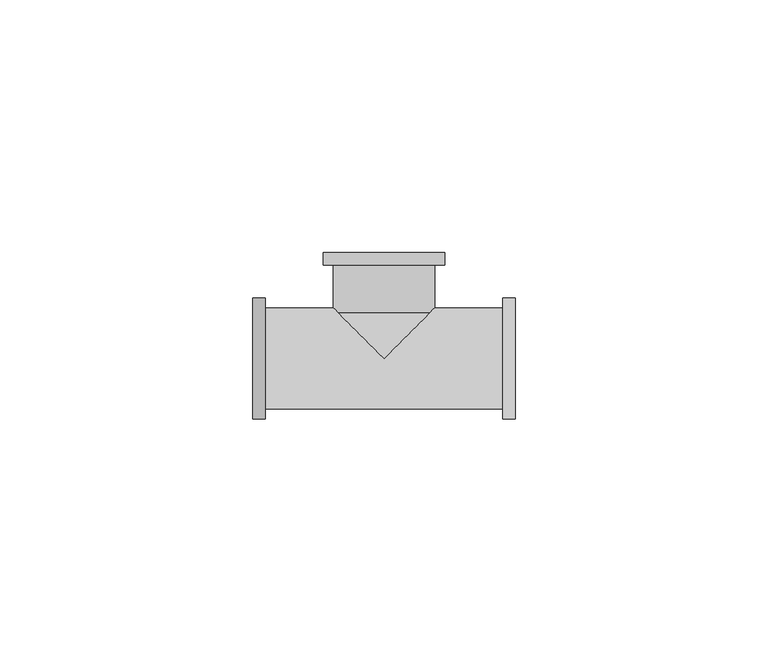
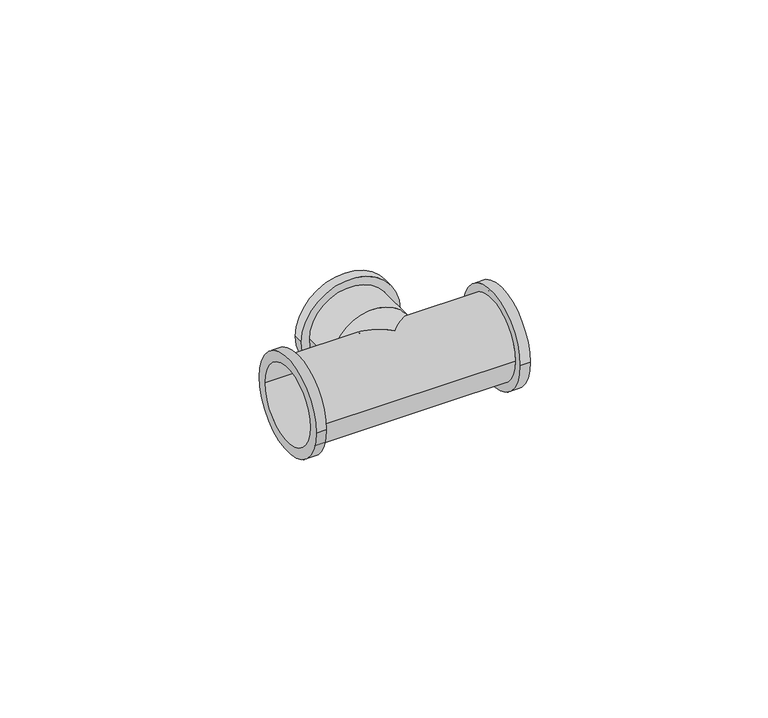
"""IFC4 building model written with IfcOpenShell, lengths in millimetres: pipe fitting geometry, БИР ПЕКС_НПР_Тройник_ВР : Тройник с внутренней резьбой."""

from ifc_helpers import new_model, si_unit, frame, origin, place, context, project, spatial, polyline, circle_curve, ellipse_curve, source, transform, mapped, element, save
from ifc_brep_helpers import plane_surface, cylinder_surface, revolved_surface, advanced_brep


def pipe_fitting_cb28dc7b(model_context):
    return source(origin(), model_context, "Body", "AdvancedBrep", [
        advanced_brep(
        [(9.0, 9.0, -4.3588989), (0.0, 0.0, -10.0), (-9.0, 9.0, -4.3588989), (0.0, 0.0, 10.0), (9.0, 9.0, 4.3588989), (-9.0, 9.0, 4.3588989), (26.0, -12.0, 0.0), (26.0, 12.0, 0.0), (26.0, 9.5, 0.0), (26.0, -9.5, 0.0), (-26.0, -12.0, 0.0), (-26.0, 12.0, 0.0), (-26.0, -9.5, 0.0), (-26.0, 9.5, 0.0), (10.0, 10.0, 0.0), (23.5, 10.0, 0.0), (23.5, -10.0, 0.0), (-23.5, -10.0, 0.0), (-23.5, 10.0, 0.0), (-10.0, 10.0, 0.0), (-12.0, 18.5, 0.0), (12.0, 18.5, 0.0), (10.0, 18.5, 0.0), (-10.0, 18.5, 0.0), (-12.0, 21.0, 0.0), (12.0, 21.0, 0.0), (-23.5, -12.0, 0.0), (-23.5, 12.0, 0.0), (23.5, -12.0, 0.0), (23.5, 12.0, 0.0), (9.5, 9.5, 0.0), (0.0, 0.0, -9.5), (-9.5, 9.5, 0.0), (0.0, 0.0, 9.5), (9.5, 16.0, 0.0), (-9.5, 16.0, 0.0)],
        [
            (0, 1, ellipse_curve(frame((0.0, 0.0, 0.0), z_axis=(-0.7071067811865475, 0.7071067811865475, 0.0), x_axis=(-0.7071067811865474, -0.7071067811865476, 0.0)), 14.1421356, 10.0)),
            (1, 2, ellipse_curve(frame((0.0, 0.0, 0.0), z_axis=(0.7071067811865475, 0.7071067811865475, 0.0), x_axis=(0.7071067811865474, -0.7071067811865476, 0.0)), 14.1421356, 10.0)),
            (2, 0, circle_curve(frame((0.0, 9.0, 0.0), z_axis=(0.0, -1.0, 0.0), x_axis=(1.0, 0.0, 0.0)), 10.0)),
            (3, 4, ellipse_curve(frame((0.0, 0.0, 0.0), z_axis=(-0.7071067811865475, 0.7071067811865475, 0.0), x_axis=(-0.7071067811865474, -0.7071067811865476, 0.0)), 14.1421356, 10.0)),
            (4, 5, circle_curve(frame((0.0, 9.0, 0.0), z_axis=(0.0, -1.0, 0.0), x_axis=(1.0, 0.0, 0.0)), 10.0)),
            (5, 3, ellipse_curve(frame((0.0, 0.0, 0.0), z_axis=(0.7071067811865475, 0.7071067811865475, 0.0), x_axis=(0.7071067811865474, -0.7071067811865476, 0.0)), 14.1421356, 10.0)),
            (6, 7, circle_curve(frame((26.0, 0.0, 0.0), z_axis=(1.0, 0.0, 0.0), x_axis=(0.0, 1.0, 0.0)), 12.0)),
            (7, 6, circle_curve(frame((26.0, 0.0, 0.0), z_axis=(1.0, 0.0, 0.0), x_axis=(0.0, 1.0, 0.0)), 12.0)),
            (8, 9, circle_curve(frame((26.0, 0.0, 0.0), z_axis=(-1.0, 0.0, 0.0), x_axis=(0.0, 1.0, 0.0)), 9.5)),
            (9, 8, circle_curve(frame((26.0, 0.0, 0.0), z_axis=(-1.0, 0.0, 0.0), x_axis=(0.0, 1.0, 0.0)), 9.5)),
            (10, 11, circle_curve(frame((-26.0, 0.0, 0.0), z_axis=(-1.0, 0.0, 0.0), x_axis=(0.0, 1.0, 0.0)), 12.0)),
            (11, 10, circle_curve(frame((-26.0, 0.0, 0.0), z_axis=(-1.0, 0.0, 0.0), x_axis=(0.0, 1.0, 0.0)), 12.0)),
            (12, 13, circle_curve(frame((-26.0, 0.0, 0.0), z_axis=(1.0, 0.0, 0.0), x_axis=(0.0, 1.0, 0.0)), 9.5)),
            (13, 12, circle_curve(frame((-26.0, 0.0, 0.0), z_axis=(1.0, 0.0, 0.0), x_axis=(0.0, 1.0, 0.0)), 9.5)),
            (0, 14, ellipse_curve(frame((0.0, 0.0, 0.0), z_axis=(0.7071067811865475, -0.7071067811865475, 0.0), x_axis=(0.7071067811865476, 0.7071067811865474, 0.0)), 14.1421356, 10.0)),
            (14, 15),
            (15, 16, circle_curve(frame((23.5, 0.0, 0.0), z_axis=(-1.0, 0.0, 0.0), x_axis=(0.0, 1.0, 0.0)), 10.0)),
            (16, 17),
            (17, 18, circle_curve(frame((-23.5, 0.0, 0.0), z_axis=(1.0, 0.0, 0.0), x_axis=(0.0, 1.0, 0.0)), 10.0)),
            (18, 19),
            (19, 2, ellipse_curve(frame((0.0, 0.0, 0.0), z_axis=(-0.7071067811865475, -0.7071067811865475, 0.0), x_axis=(0.7071067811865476, -0.7071067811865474, 0.0)), 14.1421356, 10.0)),
            (5, 19, ellipse_curve(frame((0.0, 0.0, 0.0), z_axis=(-0.7071067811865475, -0.7071067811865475, 0.0), x_axis=(0.7071067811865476, -0.7071067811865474, 0.0)), 14.1421356, 10.0)),
            (18, 17, circle_curve(frame((-23.5, 0.0, 0.0), z_axis=(1.0, 0.0, 0.0), x_axis=(0.0, 1.0, 0.0)), 10.0)),
            (16, 15, circle_curve(frame((23.5, 0.0, 0.0), z_axis=(-1.0, 0.0, 0.0), x_axis=(0.0, 1.0, 0.0)), 10.0)),
            (14, 4, ellipse_curve(frame((0.0, 0.0, 0.0), z_axis=(0.7071067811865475, -0.7071067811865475, 0.0), x_axis=(0.7071067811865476, 0.7071067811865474, 0.0)), 14.1421356, 10.0)),
            (20, 21, circle_curve(frame((0.0, 18.5, 0.0), z_axis=(0.0, -1.0, 0.0), x_axis=(1.0, 0.0, 0.0)), 12.0)),
            (21, 20, circle_curve(frame((0.0, 18.5, 0.0), z_axis=(0.0, -1.0, 0.0), x_axis=(1.0, 0.0, 0.0)), 12.0)),
            (22, 23, circle_curve(frame((0.0, 18.5, 0.0), z_axis=(0.0, 1.0, 0.0), x_axis=(1.0, 0.0, 0.0)), 10.0)),
            (23, 22, circle_curve(frame((0.0, 18.5, 0.0), z_axis=(0.0, 1.0, 0.0), x_axis=(1.0, 0.0, 0.0)), 10.0)),
            (20, 24),
            (24, 25, circle_curve(frame((0.0, 21.0, 0.0), z_axis=(0.0, -1.0, 0.0), x_axis=(1.0, 0.0, 0.0)), 12.0)),
            (25, 21),
            (25, 24, circle_curve(frame((0.0, 21.0, 0.0), z_axis=(0.0, -1.0, 0.0), x_axis=(1.0, 0.0, 0.0)), 12.0)),
            (26, 27, circle_curve(frame((-23.5, 0.0, 0.0), z_axis=(1.0, 0.0, 0.0), x_axis=(0.0, 1.0, 0.0)), 12.0)),
            (27, 26, circle_curve(frame((-23.5, 0.0, 0.0), z_axis=(1.0, 0.0, 0.0), x_axis=(0.0, 1.0, 0.0)), 12.0)),
            (11, 27),
            (26, 10),
            (28, 29, circle_curve(frame((23.5, 0.0, 0.0), z_axis=(-1.0, 0.0, 0.0), x_axis=(0.0, 1.0, 0.0)), 12.0)),
            (29, 28, circle_curve(frame((23.5, 0.0, 0.0), z_axis=(-1.0, 0.0, 0.0), x_axis=(0.0, 1.0, 0.0)), 12.0)),
            (6, 28),
            (29, 7),
            (22, 14),
            (19, 23),
            (12, 9),
            (8, 30),
            (30, 31, ellipse_curve(frame((0.0, 0.0, 0.0), z_axis=(-0.7071067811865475, 0.7071067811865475, 0.0), x_axis=(0.7071067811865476, 0.7071067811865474, 0.0)), 13.4350288, 9.5)),
            (31, 32, ellipse_curve(frame((0.0, 0.0, 0.0), z_axis=(0.7071067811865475, 0.7071067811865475, 0.0), x_axis=(0.7071067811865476, -0.7071067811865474, 0.0)), 13.4350288, 9.5)),
            (32, 13),
            (32, 33, ellipse_curve(frame((0.0, 0.0, 0.0), z_axis=(0.7071067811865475, 0.7071067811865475, 0.0), x_axis=(0.7071067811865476, -0.7071067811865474, 0.0)), 13.4350288, 9.5)),
            (33, 30, ellipse_curve(frame((0.0, 0.0, 0.0), z_axis=(-0.7071067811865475, 0.7071067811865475, 0.0), x_axis=(0.7071067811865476, 0.7071067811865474, 0.0)), 13.4350288, 9.5)),
            (34, 35, circle_curve(frame((0.0, 16.0, 0.0), z_axis=(0.0, 1.0, 0.0), x_axis=(1.0, 0.0, 0.0)), 9.5)),
            (35, 32),
            (30, 34),
            (35, 34, circle_curve(frame((0.0, 16.0, 0.0), z_axis=(0.0, 1.0, 0.0), x_axis=(1.0, 0.0, 0.0)), 9.5)),
        ],
        [
            cylinder_surface(frame((0.0, 9.0, 0.0), z_axis=(0.0, -1.0, 0.0), x_axis=(1.0, 0.0, 0.0)), 10.0),
            plane_surface(frame((26.0, 10.0, 0.0), z_axis=(1.0, 0.0, 0.0), x_axis=(0.0, 0.0, 1.0))),
            plane_surface(frame((-26.0, 10.0, 0.0), z_axis=(-1.0, 0.0, 0.0), x_axis=(0.0, 0.0, -1.0))),
            cylinder_surface(frame((-26.0, 0.0, 0.0), z_axis=(1.0, 0.0, 0.0), x_axis=(0.0, 1.0, 0.0)), 10.0),
            plane_surface(frame((12.0, 18.5, 0.0), z_axis=(0.0, -1.0, 0.0), x_axis=(0.0, 0.0, 1.0))),
            cylinder_surface(frame((0.0, 21.0, 0.0), z_axis=(0.0, -1.0, 0.0), x_axis=(1.0, 0.0, 0.0)), 12.0),
            plane_surface(frame((-23.5, 12.0, 0.0), z_axis=(1.0, 0.0, 0.0), x_axis=(0.0, 0.0, 1.0))),
            cylinder_surface(frame((-23.5, 0.0, 0.0), z_axis=(-1.0, 0.0, 0.0), x_axis=(0.0, 1.0, 0.0)), 12.0),
            plane_surface(frame((23.5, 12.0, 0.0), z_axis=(-1.0, 0.0, 0.0), x_axis=(0.0, 0.0, -1.0))),
            cylinder_surface(frame((23.5, 0.0, 0.0), z_axis=(1.0, 0.0, 0.0), x_axis=(0.0, 1.0, 0.0)), 12.0),
            plane_surface(frame((12.0, 21.0, 0.0), z_axis=(0.0, 1.0, 0.0), x_axis=(0.0, 0.0, -1.0))),
            cylinder_surface(frame((0.0, 18.5, 0.0), z_axis=(0.0, -1.0, 0.0), x_axis=(1.0, 0.0, 0.0)), 10.0),
            revolved_surface(polyline([(26.0, 9.5, 0.0), (-26.0, 9.5, 0.0)]), (-26.0, 0.0, 0.0), (1.0, 0.0, 0.0)),
            revolved_surface(polyline([(9.5, -9.499999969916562, 0.0), (9.5, 16.0, 0.0)]), (0.0, 16.0, 0.0), (0.0, -1.0, 0.0)),
            plane_surface(frame((9.5, 16.0, 0.0), z_axis=(0.0, -1.0, 0.0), x_axis=(0.0, 0.0, -1.0))),
        ],
        [
            (0, [[1, 2, 3]]),
            (0, [[4, 5, 6]]),
            (1, [[7, 8], [9, 10]]),
            (2, [[11, 12], [13, 14]]),
            (3, [[-1, 15, 16, 17, 18, 19, 20, 21, -2]]),
            (3, [[-4, -6, 22, -20, 23, -18, 24, -16, 25]]),
            (4, [[26, 27], [28, 29]]),
            (5, [[-26, 30, 31, 32]]),
            (5, [[-27, -32, 33, -30]]),
            (6, [[34, 35], [-19, -23]]),
            (7, [[-12, 36, -34, 37]]),
            (7, [[-11, -37, -35, -36]]),
            (8, [[38, 39], [-17, -24]]),
            (9, [[-7, 40, -39, 41]]),
            (9, [[-8, -41, -38, -40]]),
            (10, [[-33, -31]]),
            (11, [[42, -15, -3, -21, 43, -28]]),
            (11, [[-42, -29, -43, -22, -5, -25]]),
            (12, [[44, -9, 45, 46, 47, 48, -13]]),
            (12, [[-44, -14, -48, 49, 50, -45, -10]]),
            (13, [[51, 52, -47, -46, 53]]),
            (13, [[54, -53, -50, -49, -52]]),
            (14, [[-51, -54]]),
        ],
    ),
    ])


if __name__ == "__main__":
    model = new_model("IFC4")
    model_context = context("Model", 3, world=origin())
    ifc_project = project(units=[si_unit("LENGTHUNIT", "METRE", prefix="MILLI")], contexts=[model_context])
    site = spatial("IfcSite", under=ifc_project)
    building = spatial("IfcBuilding", under=site)
    placement = place(None, origin())
    pipe_fitting_shape = pipe_fitting_cb28dc7b(model_context)
    element("IfcPipeFitting", 1, ObjectType="БИР ПЕКС_НПР_Тройник_ВР : Тройник с внутренней резьбой", at=placement, inside=building, context=model_context, shape_type="MappedRepresentation", body=[
        mapped(pipe_fitting_shape, transform((0.0, 0.0, 0.0), x_axis=(1.0, 0.0, 0.0), y_axis=(0.0, 1.0, 0.0), z_axis=(0.0, 0.0, 1.0))),
    ])
    save(model, "model.ifc")
